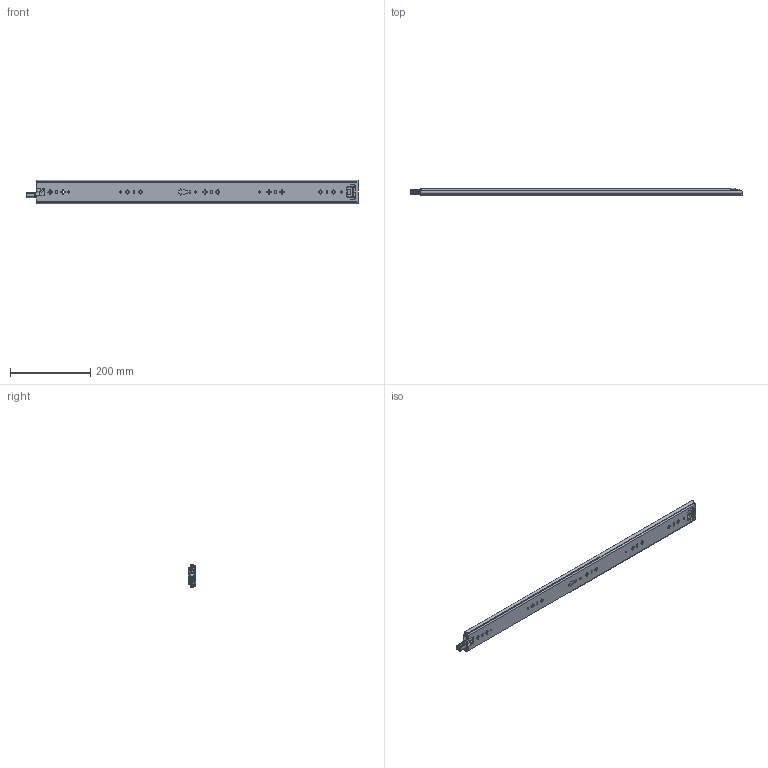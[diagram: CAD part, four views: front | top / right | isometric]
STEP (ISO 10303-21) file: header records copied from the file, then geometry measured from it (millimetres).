
FILE_DESCRIPTION((''),'2;1');
FILE_NAME('KP-57-01ZUZHUANGTU-32_ASM','2022-08-17T',('jishu015'),(''),'PRO/ENGINEER BY PARAMETRIC TECHNOLOGY CORPORATION, 2010280','PRO/ENGINEER BY PARAMETRIC TECHNOLOGY CORPORATION, 2010280','');
FILE_SCHEMA(('CONFIG_CONTROL_DESIGN'));
Products named in the file (22): KP-57-01WEIKE-18__________; 1057WEIJIAO__________; WAIKE_________ASM; KP-57-01ZHONGGUI-18__________; ZHONGGUIPEIJIAN-11________; ZHONGGUISUOKOU-11________; KP-57-01ZHONGGUI-18___________ASM; 1057XIAOZHUJIA__________; 1057-5-6GANZHU__________; 1057XIAOZHUJIA-14GE___________ASM; KP-57-01NEIGUI-18__________; PJ-57-08________; DIAOPIAN-11________; 50XINSUOKOU-1________; TANHUANG________; 1053-3SBANJI122______; JIAO11______; KP-57-01NEIGUI-18___________ASM; 1053ZHUTIAO-175______________; 53-5-6GANZHU______________; 1053ZHUTIAO-175MM_________ASM; KP-57-01ZUZHUANGTU-32_ASM
Assembly tree (90 placements, depth 3):
  KP-57-01ZUZHUANGTU-32_ASM
    WAIKE_________ASM
      KP-57-01WEIKE-18__________
      1057WEIJIAO__________
    KP-57-01ZHONGGUI-18___________ASM
      KP-57-01ZHONGGUI-18__________
      ZHONGGUIPEIJIAN-11________
      ZHONGGUISUOKOU-11________
    1057XIAOZHUJIA-14GE___________ASM
      1057XIAOZHUJIA__________
      1057-5-6GANZHU__________  x56
    KP-57-01NEIGUI-18___________ASM
      KP-57-01NEIGUI-18__________
      PJ-57-08________
      DIAOPIAN-11________
      50XINSUOKOU-1________
      TANHUANG________
      1053-3SBANJI122______
      JIAO11______
    1053ZHUTIAO-175MM_________ASM  x2
      1053ZHUTIAO-175______________
      53-5-6GANZHU______________
Bounding box: 825.42 x 19 x 57.67 mm (x, y, z)
Volume: 349295 mm3; surface area: 380969.3 mm2
Topology: 102 solids, 102 shells, 2603 faces, 7502 edges, 4688 vertices
Faces by surface type: cylinder 1124, plane 1050, sphere 179, bspline 118, cone 84, torus 25, extrusion 23
Entity records: 84261 total; most frequent: CARTESIAN_POINT 20841, ORIENTED_EDGE 13432, DIRECTION 13053, EDGE_CURVE 6716, AXIS2_PLACEMENT_3D 4518, VERTEX_POINT 4340, VECTOR 4017, LINE 3994
